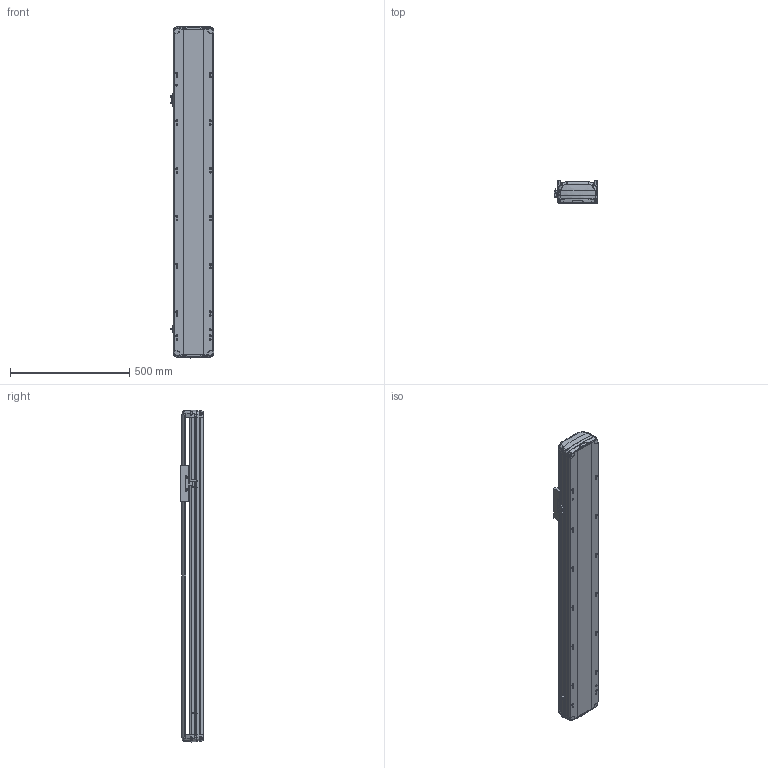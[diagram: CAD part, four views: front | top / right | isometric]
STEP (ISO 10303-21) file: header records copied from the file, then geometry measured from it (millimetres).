
FILE_DESCRIPTION (( 'STEP AP214' ), '1' );
FILE_NAME ('RTH17-XX-950-B-M40B-C4.STEP', '2025-10-24T09:18:19', ( '' ), ( '' ), 'SwSTEP 2.0', 'SolidWorks 2018', '' );
FILE_SCHEMA (( 'AUTOMOTIVE_DESIGN' ));
Length unit declared in the file: millimetre
Products named in the file (7): N_RTH17-M-011B底座^RTH17-XX-XX-B-M40B-C4（方程式）; RTH17-XX-950-B-M40B-C4; N_OMRON EE-SX672 換覜ん^RTH17-XX-XX-B-M40B-C4ㄗ源最宒ㄘ; N_RTH17-GY-001P^RTH17-XX-XX-B-M40B-C4（方程式）; N_RTH17-M-007B上盖^RTH17-XX-XX-B-M40B-C4（方程式）; N_RTH17-E-004丝杆螺母连接座^RTH17-XX-XX-B-M40B-C4（方程式）; N_RTH-L-012 感应片(外置)^RTH17-XX-XX-B-M40B-C4（方程式）
Assembly tree (9 placements, depth 2):
  RTH17-XX-950-B-M40B-C4
    N_RTH17-M-011B底座^RTH17-XX-XX-B-M40B-C4（方程式）
    N_RTH17-M-007B上盖^RTH17-XX-XX-B-M40B-C4（方程式）
    N_OMRON EE-SX672 換覜ん^RTH17-XX-XX-B-M40B-C4ㄗ源最宒ㄘ  x3
    N_RTH-L-012 感应片(外置)^RTH17-XX-XX-B-M40B-C4（方程式）
    N_RTH17-E-004丝杆螺母连接座^RTH17-XX-XX-B-M40B-C4（方程式）
    N_RTH17-GY-001P^RTH17-XX-XX-B-M40B-C4（方程式）  x2
Bounding box: 183.5 x 97 x 1389.88 mm (x, y, z)
Volume: 10122102.7 mm3; surface area: 1386026.6 mm2
Topology: 7 solids, 11 shells, 1752 faces, 4934 edges, 3206 vertices
Faces by surface type: plane 813, cylinder 473, bspline 420, cone 28, torus 18
Entity records: 41814 total; most frequent: CARTESIAN_POINT 17297, ORIENTED_EDGE 5372, DIRECTION 4246, EDGE_CURVE 2690, VERTEX_POINT 1760, LINE 1454, VECTOR 1454, AXIS2_PLACEMENT_3D 1396
